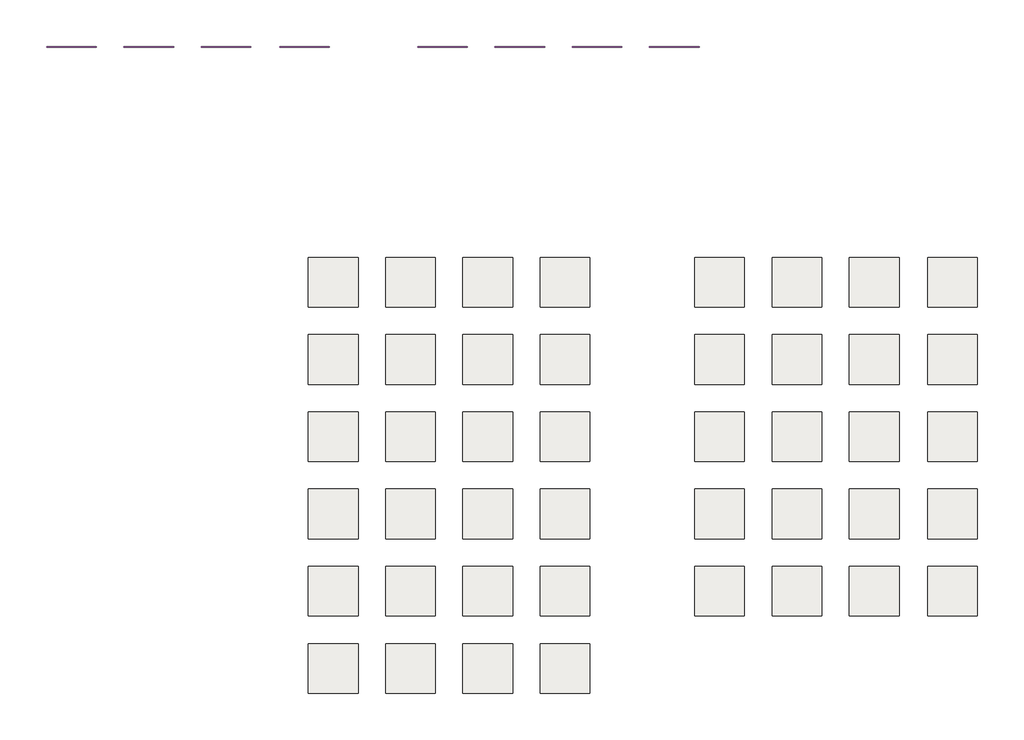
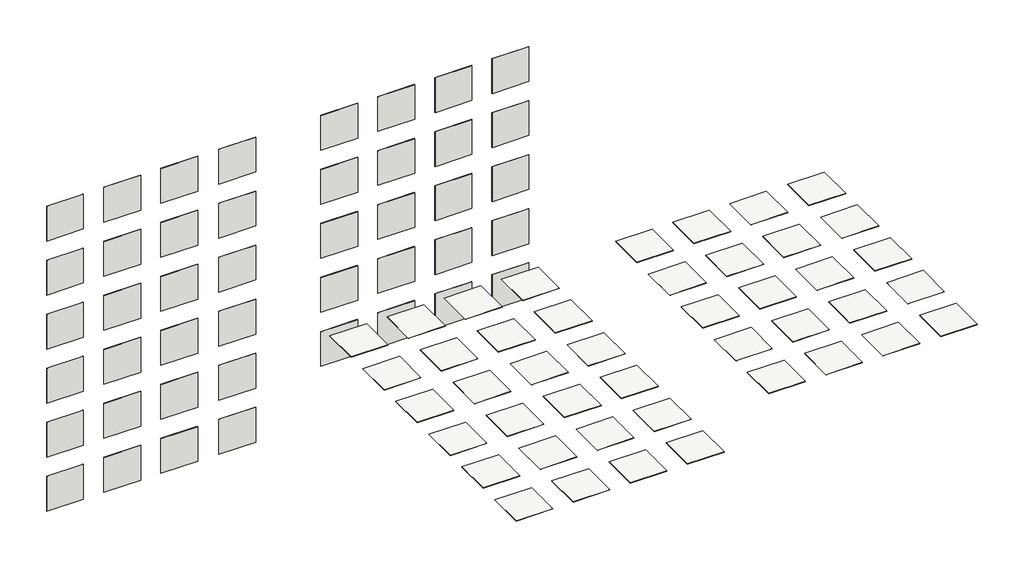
# One storey: 44 slabs, 44 walls.
"""IFC4 building model written with IfcOpenShell, lengths in millimetres."""

from ifc_helpers import new_model, si_unit, frame, origin, place, context, project, spatial, polyline, outline, extrude, element, save

model = new_model("IFC4")

# Units and contexts
model_context = context("Model", 3, world=origin())
ifc_project = project(units=[si_unit("LENGTHUNIT", "METRE", prefix="MILLI")], contexts=[model_context])

# Site, building, storey
site = spatial("IfcSite", under=ifc_project)
building = spatial("IfcBuilding", under=site)
storey = spatial("IfcBuildingStorey", under=building, Name="FARNESE FLOOR TILES", Elevation=0.0)

# Slabs
placement = place(None, origin())
element("IfcSlab", 1, ObjectType="VIVES FARNESE HUMO 30x30", at=placement, inside=storey, context=model_context, shape_type="SweptSolid", body=[
    extrude(outline(polyline([(-1946.318704, -3200.2987008), (-1946.318704, -4100.2987008), (-2846.318704, -4100.2987008), (-2846.318704, -3200.2987008), (-1946.318704, -3200.2987008)])), frame((0.0, 0.0, -8.2), z_axis=(0.0, 0.0, 1.0), x_axis=(1.0, 0.0, 0.0)), (0.0, 0.0, 1.0), 8.2),
])
element("IfcSlab", 2, ObjectType="VIVES FARNESE CEMENTO 30x30", at=placement, inside=storey, context=model_context, shape_type="SweptSolid", body=[
    extrude(outline(polyline([(-546.318704, -3200.2987008), (-546.318704, -4100.2987008), (-1446.318704, -4100.2987008), (-1446.318704, -3200.2987008), (-546.318704, -3200.2987008)])), frame((0.0, 0.0, -8.2), z_axis=(0.0, 0.0, 1.0), x_axis=(1.0, 0.0, 0.0)), (0.0, 0.0, 1.0), 8.2),
])
element("IfcSlab", 3, ObjectType="VIVES FARNESE CREMA 30x30 2", at=placement, inside=storey, context=model_context, shape_type="SweptSolid", body=[
    extrude(outline(polyline([(853.681296, -3200.2987008), (853.681296, -4100.2987008), (-46.318704, -4100.2987008), (-46.318704, -3200.2987008), (853.681296, -3200.2987008)])), frame((0.0, 0.0, -8.2), z_axis=(0.0, 0.0, 1.0), x_axis=(1.0, 0.0, 0.0)), (0.0, 0.0, 1.0), 8.2),
])
element("IfcSlab", 4, ObjectType="VIVES FARNESE GRAFITO 30x30", at=placement, inside=storey, context=model_context, shape_type="SweptSolid", body=[
    extrude(outline(polyline([(2253.681296, -3200.2987008), (2253.681296, -4100.2987008), (1353.681296, -4100.2987008), (1353.681296, -3200.2987008), (2253.681296, -3200.2987008)])), frame((0.0, 0.0, -8.2), z_axis=(0.0, 0.0, 1.0), x_axis=(1.0, 0.0, 0.0)), (0.0, 0.0, 1.0), 8.2),
])
element("IfcSlab", 5, ObjectType="VIVES AMALFI HUMO 30X30", at=placement, inside=storey, context=model_context, shape_type="SweptSolid", body=[
    extrude(outline(polyline([(-1946.318704, -4600.2987008), (-1946.318704, -5500.2987008), (-2846.318704, -5500.2987008), (-2846.318704, -4600.2987008), (-1946.318704, -4600.2987008)])), frame((0.0, 0.0, -8.2), z_axis=(0.0, 0.0, 1.0), x_axis=(1.0, 0.0, 0.0)), (0.0, 0.0, 1.0), 8.2),
])
element("IfcSlab", 6, ObjectType="VIVES AMALFI CEMENTO 30x30", at=placement, inside=storey, context=model_context, shape_type="SweptSolid", body=[
    extrude(outline(polyline([(-546.318704, -4600.2987008), (-546.318704, -5500.2987008), (-1446.318704, -5500.2987008), (-1446.318704, -4600.2987008), (-546.318704, -4600.2987008)])), frame((0.0, 0.0, -8.2), z_axis=(0.0, 0.0, 1.0), x_axis=(1.0, 0.0, 0.0)), (0.0, 0.0, 1.0), 8.2),
])
element("IfcSlab", 7, ObjectType="VIVES AMALFI CREMA 30x30", at=placement, inside=storey, context=model_context, shape_type="SweptSolid", body=[
    extrude(outline(polyline([(853.681296, -4600.2987008), (853.681296, -5500.2987008), (-46.318704, -5500.2987008), (-46.318704, -4600.2987008), (853.681296, -4600.2987008)])), frame((0.0, 0.0, -8.2), z_axis=(0.0, 0.0, 1.0), x_axis=(1.0, 0.0, 0.0)), (0.0, 0.0, 1.0), 8.2),
])
element("IfcSlab", 8, ObjectType="VIVES AMALFI GRAFITO 30x30", at=placement, inside=storey, context=model_context, shape_type="SweptSolid", body=[
    extrude(outline(polyline([(2253.681296, -4600.2987008), (2253.681296, -5500.2987008), (1353.681296, -5500.2987008), (1353.681296, -4600.2987008), (2253.681296, -4600.2987008)])), frame((0.0, 0.0, -8.2), z_axis=(0.0, 0.0, 1.0), x_axis=(1.0, 0.0, 0.0)), (0.0, 0.0, 1.0), 8.2),
])
element("IfcSlab", 9, ObjectType="VIVES AMALFI AZUL 30X30", at=placement, inside=storey, context=model_context, shape_type="SweptSolid", body=[
    extrude(outline(polyline([(-1946.318704, -6000.2987008), (-1946.318704, -6900.2987008), (-2846.318704, -6900.2987008), (-2846.318704, -6000.2987008), (-1946.318704, -6000.2987008)])), frame((0.0, 0.0, -8.2), z_axis=(0.0, 0.0, 1.0), x_axis=(1.0, 0.0, 0.0)), (0.0, 0.0, 1.0), 8.2),
])
element("IfcSlab", 10, ObjectType="VIVES AMALFI MAR 30x30", at=placement, inside=storey, context=model_context, shape_type="SweptSolid", body=[
    extrude(outline(polyline([(-546.318704, -6000.2987008), (-546.318704, -6900.2987008), (-1446.318704, -6900.2987008), (-1446.318704, -6000.2987008), (-546.318704, -6000.2987008)])), frame((0.0, 0.0, -8.2), z_axis=(0.0, 0.0, 1.0), x_axis=(1.0, 0.0, 0.0)), (0.0, 0.0, 1.0), 8.2),
])
element("IfcSlab", 11, ObjectType="VIVES AMALFI BEIGE 30x30", at=placement, inside=storey, context=model_context, shape_type="SweptSolid", body=[
    extrude(outline(polyline([(853.681296, -6000.2987008), (853.681296, -6900.2987008), (-46.318704, -6900.2987008), (-46.318704, -6000.2987008), (853.681296, -6000.2987008)])), frame((0.0, 0.0, -8.2), z_axis=(0.0, 0.0, 1.0), x_axis=(1.0, 0.0, 0.0)), (0.0, 0.0, 1.0), 8.2),
])
element("IfcSlab", 12, ObjectType="VIVES AMALFI ROSA 30x30", at=placement, inside=storey, context=model_context, shape_type="SweptSolid", body=[
    extrude(outline(polyline([(2253.681296, -6000.2987008), (2253.681296, -6900.2987008), (1353.681296, -6900.2987008), (1353.681296, -6000.2987008), (2253.681296, -6000.2987008)])), frame((0.0, 0.0, -8.2), z_axis=(0.0, 0.0, 1.0), x_axis=(1.0, 0.0, 0.0)), (0.0, 0.0, 1.0), 8.2),
])
element("IfcSlab", 13, ObjectType="VIVES MANCINI HUMO 30X30", at=placement, inside=storey, context=model_context, shape_type="SweptSolid", body=[
    extrude(outline(polyline([(-1946.318704, -7400.2987008), (-1946.318704, -8300.2987008), (-2846.318704, -8300.2987008), (-2846.318704, -7400.2987008), (-1946.318704, -7400.2987008)])), frame((0.0, 0.0, -8.2), z_axis=(0.0, 0.0, 1.0), x_axis=(1.0, 0.0, 0.0)), (0.0, 0.0, 1.0), 8.2),
])
element("IfcSlab", 14, ObjectType="VIVES MANCINI CEMENTO 30x30", at=placement, inside=storey, context=model_context, shape_type="SweptSolid", body=[
    extrude(outline(polyline([(-546.318704, -7400.2987008), (-546.318704, -8300.2987008), (-1446.318704, -8300.2987008), (-1446.318704, -7400.2987008), (-546.318704, -7400.2987008)])), frame((0.0, 0.0, -8.2), z_axis=(0.0, 0.0, 1.0), x_axis=(1.0, 0.0, 0.0)), (0.0, 0.0, 1.0), 8.2),
])
element("IfcSlab", 15, ObjectType="VIVES MANCINI CREMA 30x30", at=placement, inside=storey, context=model_context, shape_type="SweptSolid", body=[
    extrude(outline(polyline([(853.681296, -7400.2987008), (853.681296, -8300.2987008), (-46.318704, -8300.2987008), (-46.318704, -7400.2987008), (853.681296, -7400.2987008)])), frame((0.0, 0.0, -8.2), z_axis=(0.0, 0.0, 1.0), x_axis=(1.0, 0.0, 0.0)), (0.0, 0.0, 1.0), 8.2),
])
element("IfcSlab", 16, ObjectType="VIVES MANCINI GRAFITO 30x30", at=placement, inside=storey, context=model_context, shape_type="SweptSolid", body=[
    extrude(outline(polyline([(2253.681296, -7400.2987008), (2253.681296, -8300.2987008), (1353.681296, -8300.2987008), (1353.681296, -7400.2987008), (2253.681296, -7400.2987008)])), frame((0.0, 0.0, -8.2), z_axis=(0.0, 0.0, 1.0), x_axis=(1.0, 0.0, 0.0)), (0.0, 0.0, 1.0), 8.2),
])
element("IfcSlab", 17, ObjectType="VIVES MANCINI AZUL 30X30", at=placement, inside=storey, context=model_context, shape_type="SweptSolid", body=[
    extrude(outline(polyline([(-1946.318704, -8800.2987008), (-1946.318704, -9700.2987008), (-2846.318704, -9700.2987008), (-2846.318704, -8800.2987008), (-1946.318704, -8800.2987008)])), frame((0.0, 0.0, -8.2), z_axis=(0.0, 0.0, 1.0), x_axis=(1.0, 0.0, 0.0)), (0.0, 0.0, 1.0), 8.2),
])
element("IfcSlab", 18, ObjectType="VIVES MANCINI MAR 30x30", at=placement, inside=storey, context=model_context, shape_type="SweptSolid", body=[
    extrude(outline(polyline([(-546.318704, -8800.2987008), (-546.318704, -9700.2987008), (-1446.318704, -9700.2987008), (-1446.318704, -8800.2987008), (-546.318704, -8800.2987008)])), frame((0.0, 0.0, -8.2), z_axis=(0.0, 0.0, 1.0), x_axis=(1.0, 0.0, 0.0)), (0.0, 0.0, 1.0), 8.2),
])
element("IfcSlab", 19, ObjectType="VIVES MANCINI BEIGE 30x30", at=placement, inside=storey, context=model_context, shape_type="SweptSolid", body=[
    extrude(outline(polyline([(853.681296, -8800.2987008), (853.681296, -9700.2987008), (-46.318704, -9700.2987008), (-46.318704, -8800.2987008), (853.681296, -8800.2987008)])), frame((0.0, 0.0, -8.2), z_axis=(0.0, 0.0, 1.0), x_axis=(1.0, 0.0, 0.0)), (0.0, 0.0, 1.0), 8.2),
])
element("IfcSlab", 20, ObjectType="VIVES MANCINI GRAFITO 30x30", at=placement, inside=storey, context=model_context, shape_type="SweptSolid", body=[
    extrude(outline(polyline([(2253.681296, -8800.2987008), (2253.681296, -9700.2987008), (1353.681296, -9700.2987008), (1353.681296, -8800.2987008), (2253.681296, -8800.2987008)])), frame((0.0, 0.0, -8.2), z_axis=(0.0, 0.0, 1.0), x_axis=(1.0, 0.0, 0.0)), (0.0, 0.0, 1.0), 8.2),
])
element("IfcSlab", 21, ObjectType="VIVES CAVOUR CEMENTO 30x30", at=placement, inside=storey, context=model_context, shape_type="SweptSolid", body=[
    extrude(outline(polyline([(-1946.318704, -10200.2987008), (-1946.318704, -11100.2987008), (-2846.318704, -11100.2987008), (-2846.318704, -10200.2987008), (-1946.318704, -10200.2987008)])), frame((0.0, 0.0, -8.2), z_axis=(0.0, 0.0, 1.0), x_axis=(1.0, 0.0, 0.0)), (0.0, 0.0, 1.0), 8.2),
])
element("IfcSlab", 22, ObjectType="VIVES CAVOUR AZUL 30x30", at=placement, inside=storey, context=model_context, shape_type="SweptSolid", body=[
    extrude(outline(polyline([(-546.318704, -10200.2987008), (-546.318704, -11100.2987008), (-1446.318704, -11100.2987008), (-1446.318704, -10200.2987008), (-546.318704, -10200.2987008)])), frame((0.0, 0.0, -8.2), z_axis=(0.0, 0.0, 1.0), x_axis=(1.0, 0.0, 0.0)), (0.0, 0.0, 1.0), 8.2),
])
element("IfcSlab", 23, ObjectType="VIVES GADNER CREMA 30x30", at=placement, inside=storey, context=model_context, shape_type="SweptSolid", body=[
    extrude(outline(polyline([(853.681296, -10200.2987008), (853.681296, -11100.2987008), (-46.318704, -11100.2987008), (-46.318704, -10200.2987008), (853.681296, -10200.2987008)])), frame((0.0, 0.0, -8.2), z_axis=(0.0, 0.0, 1.0), x_axis=(1.0, 0.0, 0.0)), (0.0, 0.0, 1.0), 8.2),
])
element("IfcSlab", 24, ObjectType="VIVES GADNER CEMENTO 30x30", at=placement, inside=storey, context=model_context, shape_type="SweptSolid", body=[
    extrude(outline(polyline([(2253.681296, -10200.2987008), (2253.681296, -11100.2987008), (1353.681296, -11100.2987008), (1353.681296, -10200.2987008), (2253.681296, -10200.2987008)])), frame((0.0, 0.0, -8.2), z_axis=(0.0, 0.0, 1.0), x_axis=(1.0, 0.0, 0.0)), (0.0, 0.0, 1.0), 8.2),
])
element("IfcSlab", 25, ObjectType="VIVES FARNESE-R HUMO 29.3X29.3", at=placement, inside=storey, context=model_context, shape_type="SweptSolid", body=[
    extrude(outline(polyline([(5053.681296, -3200.2987008), (5053.681296, -4100.2987008), (4153.681296, -4100.2987008), (4153.681296, -3200.2987008), (5053.681296, -3200.2987008)])), frame((0.0, 0.0, -8.2), z_axis=(0.0, 0.0, 1.0), x_axis=(1.0, 0.0, 0.0)), (0.0, 0.0, 1.0), 8.2),
])
element("IfcSlab", 26, ObjectType="VIVES FARNESE-R CEMENTO 29.3X29.3", at=placement, inside=storey, context=model_context, shape_type="SweptSolid", body=[
    extrude(outline(polyline([(6453.681296, -3200.2987008), (6453.681296, -4100.2987008), (5553.681296, -4100.2987008), (5553.681296, -3200.2987008), (6453.681296, -3200.2987008)])), frame((0.0, 0.0, -8.2), z_axis=(0.0, 0.0, 1.0), x_axis=(1.0, 0.0, 0.0)), (0.0, 0.0, 1.0), 8.2),
])
element("IfcSlab", 27, ObjectType="VIVES FARNESE-R CREMA 29.3X29.3", at=placement, inside=storey, context=model_context, shape_type="SweptSolid", body=[
    extrude(outline(polyline([(7853.681296, -3200.2987008), (7853.681296, -4100.2987008), (6953.681296, -4100.2987008), (6953.681296, -3200.2987008), (7853.681296, -3200.2987008)])), frame((0.0, 0.0, -8.2), z_axis=(0.0, 0.0, 1.0), x_axis=(1.0, 0.0, 0.0)), (0.0, 0.0, 1.0), 8.2),
])
element("IfcSlab", 28, ObjectType="VIVES FARNESE-R GRAFITO 29.3X29.3", at=placement, inside=storey, context=model_context, shape_type="SweptSolid", body=[
    extrude(outline(polyline([(9273.681296, -3200.2987008), (9273.681296, -4100.2987008), (8373.681296, -4100.2987008), (8373.681296, -3200.2987008), (9273.681296, -3200.2987008)])), frame((0.0, 0.0, -8.2), z_axis=(0.0, 0.0, 1.0), x_axis=(1.0, 0.0, 0.0)), (0.0, 0.0, 1.0), 8.2),
])
element("IfcSlab", 29, ObjectType="VIVES AMALFI-R HUMO 29.3X29.3", at=placement, inside=storey, context=model_context, shape_type="SweptSolid", body=[
    extrude(outline(polyline([(5053.681296, -4600.2987008), (5053.681296, -5500.2987008), (4153.681296, -5500.2987008), (4153.681296, -4600.2987008), (5053.681296, -4600.2987008)])), frame((0.0, 0.0, -8.2), z_axis=(0.0, 0.0, 1.0), x_axis=(1.0, 0.0, 0.0)), (0.0, 0.0, 1.0), 8.2),
])
element("IfcSlab", 30, ObjectType="VIVES AMALFI-R CEMENTO 29.3X29.3", at=placement, inside=storey, context=model_context, shape_type="SweptSolid", body=[
    extrude(outline(polyline([(6453.681296, -4600.2987008), (6453.681296, -5500.2987008), (5553.681296, -5500.2987008), (5553.681296, -4600.2987008), (6453.681296, -4600.2987008)])), frame((0.0, 0.0, -8.2), z_axis=(0.0, 0.0, 1.0), x_axis=(1.0, 0.0, 0.0)), (0.0, 0.0, 1.0), 8.2),
])
element("IfcSlab", 31, ObjectType="VIVES AMALFI-R CREMA 29.3X29.3", at=placement, inside=storey, context=model_context, shape_type="SweptSolid", body=[
    extrude(outline(polyline([(7853.681296, -4600.2987008), (7853.681296, -5500.2987008), (6953.681296, -5500.2987008), (6953.681296, -4600.2987008), (7853.681296, -4600.2987008)])), frame((0.0, 0.0, -8.2), z_axis=(0.0, 0.0, 1.0), x_axis=(1.0, 0.0, 0.0)), (0.0, 0.0, 1.0), 8.2),
])
element("IfcSlab", 32, ObjectType="VIVES AMALFI-R GRAFITO 29.3X29.3", at=placement, inside=storey, context=model_context, shape_type="SweptSolid", body=[
    extrude(outline(polyline([(9273.681296, -4600.2987008), (9273.681296, -5500.2987008), (8373.681296, -5500.2987008), (8373.681296, -4600.2987008), (9273.681296, -4600.2987008)])), frame((0.0, 0.0, -8.2), z_axis=(0.0, 0.0, 1.0), x_axis=(1.0, 0.0, 0.0)), (0.0, 0.0, 1.0), 8.2),
])
element("IfcSlab", 33, ObjectType="VIVES AMALFI-R AZUL 29.3X29.3", at=placement, inside=storey, context=model_context, shape_type="SweptSolid", body=[
    extrude(outline(polyline([(5053.681296, -6000.2987008), (5053.681296, -6900.2987008), (4153.681296, -6900.2987008), (4153.681296, -6000.2987008), (5053.681296, -6000.2987008)])), frame((0.0, 0.0, -8.2), z_axis=(0.0, 0.0, 1.0), x_axis=(1.0, 0.0, 0.0)), (0.0, 0.0, 1.0), 8.2),
])
element("IfcSlab", 34, ObjectType="VIVES AMALFI-R MAR 29.3X29.3", at=placement, inside=storey, context=model_context, shape_type="SweptSolid", body=[
    extrude(outline(polyline([(6453.681296, -6000.2987008), (6453.681296, -6900.2987008), (5553.681296, -6900.2987008), (5553.681296, -6000.2987008), (6453.681296, -6000.2987008)])), frame((0.0, 0.0, -8.2), z_axis=(0.0, 0.0, 1.0), x_axis=(1.0, 0.0, 0.0)), (0.0, 0.0, 1.0), 8.2),
])
element("IfcSlab", 35, ObjectType="VIVES AMALFI-R BEIGE 29.3X29.3 2", at=placement, inside=storey, context=model_context, shape_type="SweptSolid", body=[
    extrude(outline(polyline([(7853.681296, -6000.2987008), (7853.681296, -6900.2987008), (6953.681296, -6900.2987008), (6953.681296, -6000.2987008), (7853.681296, -6000.2987008)])), frame((0.0, 0.0, -8.2), z_axis=(0.0, 0.0, 1.0), x_axis=(1.0, 0.0, 0.0)), (0.0, 0.0, 1.0), 8.2),
])
element("IfcSlab", 36, ObjectType="VIVES AMALFI-R ROSA 29.3X29.3", at=placement, inside=storey, context=model_context, shape_type="SweptSolid", body=[
    extrude(outline(polyline([(9273.681296, -6000.2987008), (9273.681296, -6900.2987008), (8373.681296, -6900.2987008), (8373.681296, -6000.2987008), (9273.681296, -6000.2987008)])), frame((0.0, 0.0, -8.2), z_axis=(0.0, 0.0, 1.0), x_axis=(1.0, 0.0, 0.0)), (0.0, 0.0, 1.0), 8.2),
])
element("IfcSlab", 37, ObjectType="VIVES QUIRINALE-R MULTICOLOR 29.3X29.3", at=placement, inside=storey, context=model_context, shape_type="SweptSolid", body=[
    extrude(outline(polyline([(5053.681296, -7400.2987008), (5053.681296, -8300.2987008), (4153.681296, -8300.2987008), (4153.681296, -7400.2987008), (5053.681296, -7400.2987008)])), frame((0.0, 0.0, -8.2), z_axis=(0.0, 0.0, 1.0), x_axis=(1.0, 0.0, 0.0)), (0.0, 0.0, 1.0), 8.2),
])
element("IfcSlab", 38, ObjectType="VIVES APULIA-R MULTICOLOR 29.3X29.3", at=placement, inside=storey, context=model_context, shape_type="SweptSolid", body=[
    extrude(outline(polyline([(6453.681296, -7400.2987008), (6453.681296, -8300.2987008), (5553.681296, -8300.2987008), (5553.681296, -7400.2987008), (6453.681296, -7400.2987008)])), frame((0.0, 0.0, -8.2), z_axis=(0.0, 0.0, 1.0), x_axis=(1.0, 0.0, 0.0)), (0.0, 0.0, 1.0), 8.2),
])
element("IfcSlab", 39, ObjectType="VIVES APULIA-R CREMA 29.3X29.3", at=placement, inside=storey, context=model_context, shape_type="SweptSolid", body=[
    extrude(outline(polyline([(7853.681296, -7400.2987008), (7853.681296, -8300.2987008), (6953.681296, -8300.2987008), (6953.681296, -7400.2987008), (7853.681296, -7400.2987008)])), frame((0.0, 0.0, -8.2), z_axis=(0.0, 0.0, 1.0), x_axis=(1.0, 0.0, 0.0)), (0.0, 0.0, 1.0), 8.2),
])
element("IfcSlab", 40, ObjectType="VIVES APULIA-R HUMO 29.3X29.3", at=placement, inside=storey, context=model_context, shape_type="SweptSolid", body=[
    extrude(outline(polyline([(9273.681296, -7400.2987008), (9273.681296, -8300.2987008), (8373.681296, -8300.2987008), (8373.681296, -7400.2987008), (9273.681296, -7400.2987008)])), frame((0.0, 0.0, -8.2), z_axis=(0.0, 0.0, 1.0), x_axis=(1.0, 0.0, 0.0)), (0.0, 0.0, 1.0), 8.2),
])
element("IfcSlab", 41, ObjectType="VIVES AVENTINO-R CREMA 29.3X29.3", at=placement, inside=storey, context=model_context, shape_type="SweptSolid", body=[
    extrude(outline(polyline([(5053.681296, -8800.2987008), (5053.681296, -9700.2987008), (4153.681296, -9700.2987008), (4153.681296, -8800.2987008), (5053.681296, -8800.2987008)])), frame((0.0, 0.0, -8.2), z_axis=(0.0, 0.0, 1.0), x_axis=(1.0, 0.0, 0.0)), (0.0, 0.0, 1.0), 8.2),
])
element("IfcSlab", 42, ObjectType="VIVES AVENTINO-R HUMO 29.3X29.3", at=placement, inside=storey, context=model_context, shape_type="SweptSolid", body=[
    extrude(outline(polyline([(6453.681296, -8800.2987008), (6453.681296, -9700.2987008), (5553.681296, -9700.2987008), (5553.681296, -8800.2987008), (6453.681296, -8800.2987008)])), frame((0.0, 0.0, -8.2), z_axis=(0.0, 0.0, 1.0), x_axis=(1.0, 0.0, 0.0)), (0.0, 0.0, 1.0), 8.2),
])
element("IfcSlab", 43, ObjectType="VIVES MOLISE-R CREMA 29.3X29.3", at=placement, inside=storey, context=model_context, shape_type="SweptSolid", body=[
    extrude(outline(polyline([(7853.681296, -8800.2987008), (7853.681296, -9700.2987008), (6953.681296, -9700.2987008), (6953.681296, -8800.2987008), (7853.681296, -8800.2987008)])), frame((0.0, 0.0, -8.2), z_axis=(0.0, 0.0, 1.0), x_axis=(1.0, 0.0, 0.0)), (0.0, 0.0, 1.0), 8.2),
])
element("IfcSlab", 44, ObjectType="VIVES MOLISE-R GRAFITO 29.3X29.3", at=placement, inside=storey, context=model_context, shape_type="SweptSolid", body=[
    extrude(outline(polyline([(9273.681296, -8800.2987008), (9273.681296, -9700.2987008), (8373.681296, -9700.2987008), (8373.681296, -8800.2987008), (9273.681296, -8800.2987008)])), frame((0.0, 0.0, -8.2), z_axis=(0.0, 0.0, 1.0), x_axis=(1.0, 0.0, 0.0)), (0.0, 0.0, 1.0), 8.2),
])

# Walls
element("IfcWall", 45, ObjectType="VIVES FARNESE HUMO 30x30", at=placement, inside=storey, context=model_context, shape_type="SweptSolid", body=[
    extrude(outline(polyline([(-6688.0657075, 613.9723362), (-7588.0657075, 613.9723362), (-7588.0657075, 622.1723362), (-6688.0657075, 622.1723362), (-6688.0657075, 613.9723362)])), frame((0.0, 0.0, 1803.3641792), z_axis=(0.0, 0.0, 1.0), x_axis=(1.0, 0.0, 0.0)), (0.0, 0.0, 1.0), 900.0),
])
element("IfcWall", 46, ObjectType="VIVES FARNESE CEMENTO 30x30", at=placement, inside=storey, context=model_context, shape_type="SweptSolid", body=[
    extrude(outline(polyline([(-5288.0657075, 613.9723362), (-6188.0657075, 613.9723362), (-6188.0657075, 622.1723362), (-5288.0657075, 622.1723362), (-5288.0657075, 613.9723362)])), frame((0.0, 0.0, 1803.3641792), z_axis=(0.0, 0.0, 1.0), x_axis=(1.0, 0.0, 0.0)), (0.0, 0.0, 1.0), 900.0),
])
element("IfcWall", 47, ObjectType="VIVES FARNESE CREMA 30x30", at=placement, inside=storey, context=model_context, shape_type="SweptSolid", body=[
    extrude(outline(polyline([(-3888.0657075, 613.9723362), (-4788.0657075, 613.9723362), (-4788.0657075, 622.1723362), (-3888.0657075, 622.1723362), (-3888.0657075, 613.9723362)])), frame((0.0, 0.0, 1803.3641792), z_axis=(0.0, 0.0, 1.0), x_axis=(1.0, 0.0, 0.0)), (0.0, 0.0, 1.0), 900.0),
])
element("IfcWall", 48, ObjectType="VIVES FARNESE GRAFITO 30x30", at=placement, inside=storey, context=model_context, shape_type="SweptSolid", body=[
    extrude(outline(polyline([(-2468.0657075, 613.9723362), (-3368.0657075, 613.9723362), (-3368.0657075, 622.1723362), (-2468.0657075, 622.1723362), (-2468.0657075, 613.9723362)])), frame((0.0, 0.0, 1803.3641792), z_axis=(0.0, 0.0, 1.0), x_axis=(1.0, 0.0, 0.0)), (0.0, 0.0, 1.0), 900.0),
])
element("IfcWall", 49, ObjectType="VIVES AMALFI HUMO 30x30", at=placement, inside=storey, context=model_context, shape_type="SweptSolid", body=[
    extrude(outline(polyline([(-6688.0657075, 613.9723362), (-7588.0657075, 613.9723362), (-7588.0657075, 622.1723362), (-6688.0657075, 622.1723362), (-6688.0657075, 613.9723362)])), frame((0.0, 0.0, 403.3641792), z_axis=(0.0, 0.0, 1.0), x_axis=(1.0, 0.0, 0.0)), (0.0, 0.0, 1.0), 900.0),
])
element("IfcWall", 50, ObjectType="VIVES AMALFI CEMENTO 30x30", at=placement, inside=storey, context=model_context, shape_type="SweptSolid", body=[
    extrude(outline(polyline([(-5288.0657075, 613.9723362), (-6188.0657075, 613.9723362), (-6188.0657075, 622.1723362), (-5288.0657075, 622.1723362), (-5288.0657075, 613.9723362)])), frame((0.0, 0.0, 403.3641792), z_axis=(0.0, 0.0, 1.0), x_axis=(1.0, 0.0, 0.0)), (0.0, 0.0, 1.0), 900.0),
])
element("IfcWall", 51, ObjectType="VIVES AMALFI CREMA 30x30", at=placement, inside=storey, context=model_context, shape_type="SweptSolid", body=[
    extrude(outline(polyline([(-3888.0657075, 613.9723362), (-4788.0657075, 613.9723362), (-4788.0657075, 622.1723362), (-3888.0657075, 622.1723362), (-3888.0657075, 613.9723362)])), frame((0.0, 0.0, 403.3641792), z_axis=(0.0, 0.0, 1.0), x_axis=(1.0, 0.0, 0.0)), (0.0, 0.0, 1.0), 900.0),
])
element("IfcWall", 52, ObjectType="VIVES AMALFI GRAFITO 30x30", at=placement, inside=storey, context=model_context, shape_type="SweptSolid", body=[
    extrude(outline(polyline([(-2468.0657075, 613.9723362), (-3368.0657075, 613.9723362), (-3368.0657075, 622.1723362), (-2468.0657075, 622.1723362), (-2468.0657075, 613.9723362)])), frame((0.0, 0.0, 403.3641792), z_axis=(0.0, 0.0, 1.0), x_axis=(1.0, 0.0, 0.0)), (0.0, 0.0, 1.0), 900.0),
])
element("IfcWall", 53, ObjectType="VIVES AMALFI AZUL30x30", at=placement, inside=storey, context=model_context, shape_type="SweptSolid", body=[
    extrude(outline(polyline([(-6688.0657075, 613.9723362), (-7588.0657075, 613.9723362), (-7588.0657075, 622.1723362), (-6688.0657075, 622.1723362), (-6688.0657075, 613.9723362)])), frame((0.0, 0.0, -996.6358208), z_axis=(0.0, 0.0, 1.0), x_axis=(1.0, 0.0, 0.0)), (0.0, 0.0, 1.0), 900.0),
])
element("IfcWall", 54, ObjectType="VIVES AMALFI MAR 30x30", at=placement, inside=storey, context=model_context, shape_type="SweptSolid", body=[
    extrude(outline(polyline([(-5288.0657075, 613.9723362), (-6188.0657075, 613.9723362), (-6188.0657075, 622.1723362), (-5288.0657075, 622.1723362), (-5288.0657075, 613.9723362)])), frame((0.0, 0.0, -996.6358208), z_axis=(0.0, 0.0, 1.0), x_axis=(1.0, 0.0, 0.0)), (0.0, 0.0, 1.0), 900.0),
])
element("IfcWall", 55, ObjectType="VIVES AMALFI BEIGE 30x30", at=placement, inside=storey, context=model_context, shape_type="SweptSolid", body=[
    extrude(outline(polyline([(-3888.0657075, 613.9723362), (-4788.0657075, 613.9723362), (-4788.0657075, 622.1723362), (-3888.0657075, 622.1723362), (-3888.0657075, 613.9723362)])), frame((0.0, 0.0, -996.6358208), z_axis=(0.0, 0.0, 1.0), x_axis=(1.0, 0.0, 0.0)), (0.0, 0.0, 1.0), 900.0),
])
element("IfcWall", 56, ObjectType="VIVES AMALFI ROSA 30x30", at=placement, inside=storey, context=model_context, shape_type="SweptSolid", body=[
    extrude(outline(polyline([(-2468.0657075, 613.9723362), (-3368.0657075, 613.9723362), (-3368.0657075, 622.1723362), (-2468.0657075, 622.1723362), (-2468.0657075, 613.9723362)])), frame((0.0, 0.0, -996.6358208), z_axis=(0.0, 0.0, 1.0), x_axis=(1.0, 0.0, 0.0)), (0.0, 0.0, 1.0), 900.0),
])
element("IfcWall", 57, ObjectType="VIVES MANCINI HUMO 30x30", at=placement, inside=storey, context=model_context, shape_type="SweptSolid", body=[
    extrude(outline(polyline([(-6688.0657075, 613.9723362), (-7588.0657075, 613.9723362), (-7588.0657075, 622.1723362), (-6688.0657075, 622.1723362), (-6688.0657075, 613.9723362)])), frame((0.0, 0.0, -2396.6358208), z_axis=(0.0, 0.0, 1.0), x_axis=(1.0, 0.0, 0.0)), (0.0, 0.0, 1.0), 900.0),
])
element("IfcWall", 58, ObjectType="MANCINI CEMENTO 30x30", at=placement, inside=storey, context=model_context, shape_type="SweptSolid", body=[
    extrude(outline(polyline([(-5288.0657075, 613.9723362), (-6188.0657075, 613.9723362), (-6188.0657075, 622.1723362), (-5288.0657075, 622.1723362), (-5288.0657075, 613.9723362)])), frame((0.0, 0.0, -2396.6358208), z_axis=(0.0, 0.0, 1.0), x_axis=(1.0, 0.0, 0.0)), (0.0, 0.0, 1.0), 900.0),
])
element("IfcWall", 59, ObjectType="VIVES MANCINI CREMA 30x30", at=placement, inside=storey, context=model_context, shape_type="SweptSolid", body=[
    extrude(outline(polyline([(-3888.0657075, 613.9723362), (-4788.0657075, 613.9723362), (-4788.0657075, 622.1723362), (-3888.0657075, 622.1723362), (-3888.0657075, 613.9723362)])), frame((0.0, 0.0, -2396.6358208), z_axis=(0.0, 0.0, 1.0), x_axis=(1.0, 0.0, 0.0)), (0.0, 0.0, 1.0), 900.0),
])
element("IfcWall", 60, ObjectType="VIVES MANCINI GRAFITO 30x30", at=placement, inside=storey, context=model_context, shape_type="SweptSolid", body=[
    extrude(outline(polyline([(-2468.0657075, 613.9723362), (-3368.0657075, 613.9723362), (-3368.0657075, 622.1723362), (-2468.0657075, 622.1723362), (-2468.0657075, 613.9723362)])), frame((0.0, 0.0, -2396.6358208), z_axis=(0.0, 0.0, 1.0), x_axis=(1.0, 0.0, 0.0)), (0.0, 0.0, 1.0), 900.0),
])
element("IfcWall", 61, ObjectType="VIVES MANCINI AZUL 30x30", at=placement, inside=storey, context=model_context, shape_type="SweptSolid", body=[
    extrude(outline(polyline([(-6688.0657075, 613.9723362), (-7588.0657075, 613.9723362), (-7588.0657075, 622.1723362), (-6688.0657075, 622.1723362), (-6688.0657075, 613.9723362)])), frame((0.0, 0.0, -3796.6358208), z_axis=(0.0, 0.0, 1.0), x_axis=(1.0, 0.0, 0.0)), (0.0, 0.0, 1.0), 900.0),
])
element("IfcWall", 62, ObjectType="MANCINI MAR 30x30", at=placement, inside=storey, context=model_context, shape_type="SweptSolid", body=[
    extrude(outline(polyline([(-5288.0657075, 613.9723362), (-6188.0657075, 613.9723362), (-6188.0657075, 622.1723362), (-5288.0657075, 622.1723362), (-5288.0657075, 613.9723362)])), frame((0.0, 0.0, -3796.6358208), z_axis=(0.0, 0.0, 1.0), x_axis=(1.0, 0.0, 0.0)), (0.0, 0.0, 1.0), 900.0),
])
element("IfcWall", 63, ObjectType="VIVES MANCINI BEIGE 30x30", at=placement, inside=storey, context=model_context, shape_type="SweptSolid", body=[
    extrude(outline(polyline([(-3888.0657075, 613.9723362), (-4788.0657075, 613.9723362), (-4788.0657075, 622.1723362), (-3888.0657075, 622.1723362), (-3888.0657075, 613.9723362)])), frame((0.0, 0.0, -3796.6358208), z_axis=(0.0, 0.0, 1.0), x_axis=(1.0, 0.0, 0.0)), (0.0, 0.0, 1.0), 900.0),
])
element("IfcWall", 64, ObjectType="VIVES MANCINI ROSA 30x30", at=placement, inside=storey, context=model_context, shape_type="SweptSolid", body=[
    extrude(outline(polyline([(-2468.0657075, 613.9723362), (-3368.0657075, 613.9723362), (-3368.0657075, 622.1723362), (-2468.0657075, 622.1723362), (-2468.0657075, 613.9723362)])), frame((0.0, 0.0, -3796.6358208), z_axis=(0.0, 0.0, 1.0), x_axis=(1.0, 0.0, 0.0)), (0.0, 0.0, 1.0), 900.0),
])
element("IfcWall", 65, ObjectType="VIVES CAVOUR CEMENTO 30x30", at=placement, inside=storey, context=model_context, shape_type="SweptSolid", body=[
    extrude(outline(polyline([(-6688.0657075, 613.9723362), (-7588.0657075, 613.9723362), (-7588.0657075, 622.1723362), (-6688.0657075, 622.1723362), (-6688.0657075, 613.9723362)])), frame((0.0, 0.0, -5196.6358208), z_axis=(0.0, 0.0, 1.0), x_axis=(1.0, 0.0, 0.0)), (0.0, 0.0, 1.0), 900.0),
])
element("IfcWall", 66, ObjectType="CAVOUR AZUL 30x30", at=placement, inside=storey, context=model_context, shape_type="SweptSolid", body=[
    extrude(outline(polyline([(-5288.0657075, 613.9723362), (-6188.0657075, 613.9723362), (-6188.0657075, 622.1723362), (-5288.0657075, 622.1723362), (-5288.0657075, 613.9723362)])), frame((0.0, 0.0, -5196.6358208), z_axis=(0.0, 0.0, 1.0), x_axis=(1.0, 0.0, 0.0)), (0.0, 0.0, 1.0), 900.0),
])
element("IfcWall", 67, ObjectType="VIVES GADNER CREMA 30x30", at=placement, inside=storey, context=model_context, shape_type="SweptSolid", body=[
    extrude(outline(polyline([(-3888.0657075, 613.9723362), (-4788.0657075, 613.9723362), (-4788.0657075, 622.1723362), (-3888.0657075, 622.1723362), (-3888.0657075, 613.9723362)])), frame((0.0, 0.0, -5196.6358208), z_axis=(0.0, 0.0, 1.0), x_axis=(1.0, 0.0, 0.0)), (0.0, 0.0, 1.0), 900.0),
])
element("IfcWall", 68, ObjectType="VIVES GADNER CEMENTO 30x30", at=placement, inside=storey, context=model_context, shape_type="SweptSolid", body=[
    extrude(outline(polyline([(-2468.0657075, 613.9723362), (-3368.0657075, 613.9723362), (-3368.0657075, 622.1723362), (-2468.0657075, 622.1723362), (-2468.0657075, 613.9723362)])), frame((0.0, 0.0, -5196.6358208), z_axis=(0.0, 0.0, 1.0), x_axis=(1.0, 0.0, 0.0)), (0.0, 0.0, 1.0), 900.0),
])
element("IfcWall", 69, ObjectType="VIVES FARNESE-R HUMO 29.3X29.3", at=placement, inside=storey, context=model_context, shape_type="SweptSolid", body=[
    extrude(outline(polyline([(31.9342925, 613.9723362), (-868.0657075, 613.9723362), (-868.0657075, 622.1723362), (31.9342925, 622.1723362), (31.9342925, 613.9723362)])), frame((0.0, 0.0, 1803.3641792), z_axis=(0.0, 0.0, 1.0), x_axis=(1.0, 0.0, 0.0)), (0.0, 0.0, 1.0), 900.0),
])
element("IfcWall", 70, ObjectType="VIVES FARNESE-R CEMENTO 29.3X29.3 2", at=placement, inside=storey, context=model_context, shape_type="SweptSolid", body=[
    extrude(outline(polyline([(1431.9342925, 613.9723362), (531.9342925, 613.9723362), (531.9342925, 622.1723362), (1431.9342925, 622.1723362), (1431.9342925, 613.9723362)])), frame((0.0, 0.0, 1803.3641792), z_axis=(0.0, 0.0, 1.0), x_axis=(1.0, 0.0, 0.0)), (0.0, 0.0, 1.0), 900.0),
])
element("IfcWall", 71, ObjectType="VIVES FARNESE-R CREMA 29.3X29.3", at=placement, inside=storey, context=model_context, shape_type="SweptSolid", body=[
    extrude(outline(polyline([(2831.9342925, 613.9723362), (1931.9342925, 613.9723362), (1931.9342925, 622.1723362), (2831.9342925, 622.1723362), (2831.9342925, 613.9723362)])), frame((0.0, 0.0, 1803.3641792), z_axis=(0.0, 0.0, 1.0), x_axis=(1.0, 0.0, 0.0)), (0.0, 0.0, 1.0), 900.0),
])
element("IfcWall", 72, ObjectType="VIVES FARNESE-R GRAFITO 29.3X29.3", at=placement, inside=storey, context=model_context, shape_type="SweptSolid", body=[
    extrude(outline(polyline([(4231.9342925, 613.9723362), (3331.9342925, 613.9723362), (3331.9342925, 622.1723362), (4231.9342925, 622.1723362), (4231.9342925, 613.9723362)])), frame((0.0, 0.0, 1803.3641792), z_axis=(0.0, 0.0, 1.0), x_axis=(1.0, 0.0, 0.0)), (0.0, 0.0, 1.0), 900.0),
])
element("IfcWall", 73, ObjectType="VIVES AMALFI-R HUMO 29.3X29.3", at=placement, inside=storey, context=model_context, shape_type="SweptSolid", body=[
    extrude(outline(polyline([(31.9342925, 613.9723362), (-868.0657075, 613.9723362), (-868.0657075, 622.1723362), (31.9342925, 622.1723362), (31.9342925, 613.9723362)])), frame((0.0, 0.0, 403.3641792), z_axis=(0.0, 0.0, 1.0), x_axis=(1.0, 0.0, 0.0)), (0.0, 0.0, 1.0), 900.0),
])
element("IfcWall", 74, ObjectType="VIVES AMALFI-R CEMENTO 29.3X29.3", at=placement, inside=storey, context=model_context, shape_type="SweptSolid", body=[
    extrude(outline(polyline([(1431.9342925, 613.9723362), (531.9342925, 613.9723362), (531.9342925, 622.1723362), (1431.9342925, 622.1723362), (1431.9342925, 613.9723362)])), frame((0.0, 0.0, 403.3641792), z_axis=(0.0, 0.0, 1.0), x_axis=(1.0, 0.0, 0.0)), (0.0, 0.0, 1.0), 900.0),
])
element("IfcWall", 75, ObjectType="VIVES AMALFI-R CREMA 29.3X29.3", at=placement, inside=storey, context=model_context, shape_type="SweptSolid", body=[
    extrude(outline(polyline([(2831.9342925, 613.9723362), (1931.9342925, 613.9723362), (1931.9342925, 622.1723362), (2831.9342925, 622.1723362), (2831.9342925, 613.9723362)])), frame((0.0, 0.0, 403.3641792), z_axis=(0.0, 0.0, 1.0), x_axis=(1.0, 0.0, 0.0)), (0.0, 0.0, 1.0), 900.0),
])
element("IfcWall", 76, ObjectType="VIVES AMALFI-R GRAFITO 29.3X29.3", at=placement, inside=storey, context=model_context, shape_type="SweptSolid", body=[
    extrude(outline(polyline([(4231.9342925, 613.9723362), (3331.9342925, 613.9723362), (3331.9342925, 622.1723362), (4231.9342925, 622.1723362), (4231.9342925, 613.9723362)])), frame((0.0, 0.0, 403.3641792), z_axis=(0.0, 0.0, 1.0), x_axis=(1.0, 0.0, 0.0)), (0.0, 0.0, 1.0), 900.0),
])
element("IfcWall", 77, ObjectType="VIVES AMALFI-R AZUL 29.3X29.3", at=placement, inside=storey, context=model_context, shape_type="SweptSolid", body=[
    extrude(outline(polyline([(31.9342925, 613.9723362), (-868.0657075, 613.9723362), (-868.0657075, 622.1723362), (31.9342925, 622.1723362), (31.9342925, 613.9723362)])), frame((0.0, 0.0, -996.6358208), z_axis=(0.0, 0.0, 1.0), x_axis=(1.0, 0.0, 0.0)), (0.0, 0.0, 1.0), 900.0),
])
element("IfcWall", 78, ObjectType="VIVES AMALFI-R MAR 29.3X29.3", at=placement, inside=storey, context=model_context, shape_type="SweptSolid", body=[
    extrude(outline(polyline([(1431.9342925, 613.9723362), (531.9342925, 613.9723362), (531.9342925, 622.1723362), (1431.9342925, 622.1723362), (1431.9342925, 613.9723362)])), frame((0.0, 0.0, -996.6358208), z_axis=(0.0, 0.0, 1.0), x_axis=(1.0, 0.0, 0.0)), (0.0, 0.0, 1.0), 900.0),
])
element("IfcWall", 79, ObjectType="VIVES AMALFI-R BEIGE 29.3X29.3 2", at=placement, inside=storey, context=model_context, shape_type="SweptSolid", body=[
    extrude(outline(polyline([(2831.9342925, 613.9723362), (1931.9342925, 613.9723362), (1931.9342925, 622.1723362), (2831.9342925, 622.1723362), (2831.9342925, 613.9723362)])), frame((0.0, 0.0, -996.6358208), z_axis=(0.0, 0.0, 1.0), x_axis=(1.0, 0.0, 0.0)), (0.0, 0.0, 1.0), 900.0),
])
element("IfcWall", 80, ObjectType="VIVES AMALFI-R ROSA 29.3X29.3", at=placement, inside=storey, context=model_context, shape_type="SweptSolid", body=[
    extrude(outline(polyline([(4231.9342925, 613.9723362), (3331.9342925, 613.9723362), (3331.9342925, 622.1723362), (4231.9342925, 622.1723362), (4231.9342925, 613.9723362)])), frame((0.0, 0.0, -996.6358208), z_axis=(0.0, 0.0, 1.0), x_axis=(1.0, 0.0, 0.0)), (0.0, 0.0, 1.0), 900.0),
])
element("IfcWall", 81, ObjectType="VIVES QUIRINALE-R MULTICOLOR 29.3X29.3", at=placement, inside=storey, context=model_context, shape_type="SweptSolid", body=[
    extrude(outline(polyline([(31.9342925, 613.9723362), (-868.0657075, 613.9723362), (-868.0657075, 622.1723362), (31.9342925, 622.1723362), (31.9342925, 613.9723362)])), frame((0.0, 0.0, -2396.6358208), z_axis=(0.0, 0.0, 1.0), x_axis=(1.0, 0.0, 0.0)), (0.0, 0.0, 1.0), 900.0),
])
element("IfcWall", 82, ObjectType="VIVES APULIA-R MULTICOLOR 29.3X29.3", at=placement, inside=storey, context=model_context, shape_type="SweptSolid", body=[
    extrude(outline(polyline([(1431.9342925, 613.9723362), (531.9342925, 613.9723362), (531.9342925, 622.1723362), (1431.9342925, 622.1723362), (1431.9342925, 613.9723362)])), frame((0.0, 0.0, -2396.6358208), z_axis=(0.0, 0.0, 1.0), x_axis=(1.0, 0.0, 0.0)), (0.0, 0.0, 1.0), 900.0),
])
element("IfcWall", 83, ObjectType="VIVES APULIA-R CREMA 29.3X29.3", at=placement, inside=storey, context=model_context, shape_type="SweptSolid", body=[
    extrude(outline(polyline([(2831.9342925, 613.9723362), (1931.9342925, 613.9723362), (1931.9342925, 622.1723362), (2831.9342925, 622.1723362), (2831.9342925, 613.9723362)])), frame((0.0, 0.0, -2396.6358208), z_axis=(0.0, 0.0, 1.0), x_axis=(1.0, 0.0, 0.0)), (0.0, 0.0, 1.0), 900.0),
])
element("IfcWall", 84, ObjectType="VIVES APULIA-R HUMO 29.3X29.3", at=placement, inside=storey, context=model_context, shape_type="SweptSolid", body=[
    extrude(outline(polyline([(4231.9342925, 613.9723362), (3331.9342925, 613.9723362), (3331.9342925, 622.1723362), (4231.9342925, 622.1723362), (4231.9342925, 613.9723362)])), frame((0.0, 0.0, -2396.6358208), z_axis=(0.0, 0.0, 1.0), x_axis=(1.0, 0.0, 0.0)), (0.0, 0.0, 1.0), 900.0),
])
element("IfcWall", 85, ObjectType="VIVES AVENTINO-R CREMA 29.3X29.3", at=placement, inside=storey, context=model_context, shape_type="SweptSolid", body=[
    extrude(outline(polyline([(31.9342925, 613.9723362), (-868.0657075, 613.9723362), (-868.0657075, 622.1723362), (31.9342925, 622.1723362), (31.9342925, 613.9723362)])), frame((0.0, 0.0, -3796.6358208), z_axis=(0.0, 0.0, 1.0), x_axis=(1.0, 0.0, 0.0)), (0.0, 0.0, 1.0), 900.0),
])
element("IfcWall", 86, ObjectType="VIVES AVENTINO-R HUMO 29.3X29.3", at=placement, inside=storey, context=model_context, shape_type="SweptSolid", body=[
    extrude(outline(polyline([(1431.9342925, 613.9723362), (531.9342925, 613.9723362), (531.9342925, 622.1723362), (1431.9342925, 622.1723362), (1431.9342925, 613.9723362)])), frame((0.0, 0.0, -3796.6358208), z_axis=(0.0, 0.0, 1.0), x_axis=(1.0, 0.0, 0.0)), (0.0, 0.0, 1.0), 900.0),
])
element("IfcWall", 87, ObjectType="VIVES MOLISE-R CREMA 29.3X29.3", at=placement, inside=storey, context=model_context, shape_type="SweptSolid", body=[
    extrude(outline(polyline([(2831.9342925, 613.9723362), (1931.9342925, 613.9723362), (1931.9342925, 622.1723362), (2831.9342925, 622.1723362), (2831.9342925, 613.9723362)])), frame((0.0, 0.0, -3796.6358208), z_axis=(0.0, 0.0, 1.0), x_axis=(1.0, 0.0, 0.0)), (0.0, 0.0, 1.0), 900.0),
])
element("IfcWall", 88, ObjectType="VIVES MOLISE-R GRAFITO 29.3X29.3", at=placement, inside=storey, context=model_context, shape_type="SweptSolid", body=[
    extrude(outline(polyline([(4231.9342925, 613.9723362), (3331.9342925, 613.9723362), (3331.9342925, 622.1723362), (4231.9342925, 622.1723362), (4231.9342925, 613.9723362)])), frame((0.0, 0.0, -3796.6358208), z_axis=(0.0, 0.0, 1.0), x_axis=(1.0, 0.0, 0.0)), (0.0, 0.0, 1.0), 900.0),
])

save(model, "model.ifc")
